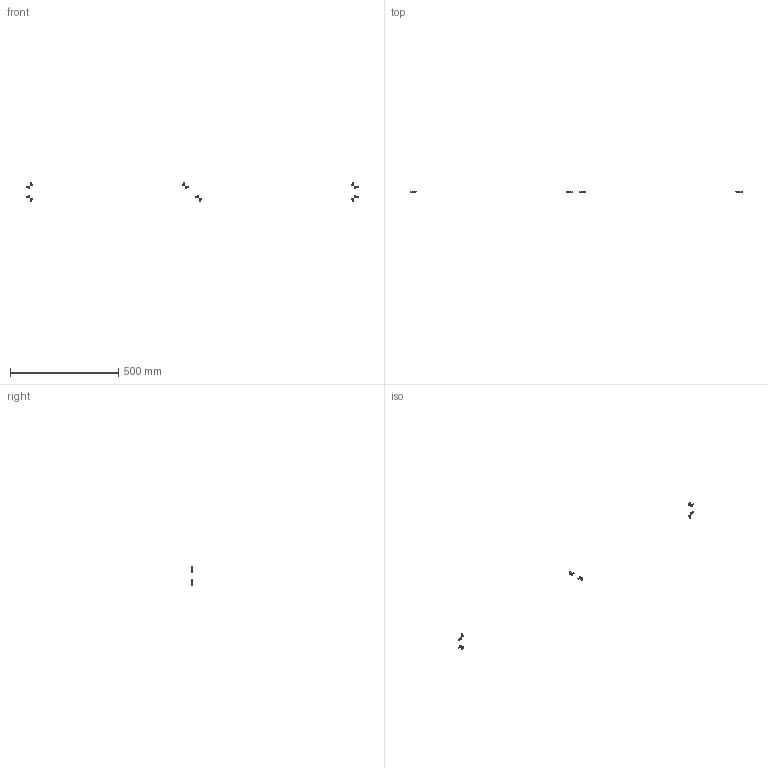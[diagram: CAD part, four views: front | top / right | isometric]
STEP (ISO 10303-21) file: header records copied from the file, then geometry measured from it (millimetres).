
FILE_DESCRIPTION(/* description */ (''),/* implementation_level */ '2;1');
FILE_NAME(/* name */ '4.frame-door#4.3#CB5-10',/* time_stamp */ '2014-12-01T20:12:36+01:00',/* author */ (''),/* organization */ (''),/* preprocessor_version */ 'ST-DEVELOPER v14',/* originating_system */ '',/* authorisation */ '');
FILE_SCHEMA (('AUTOMOTIVE_DESIGN'));
Length unit declared in the file: millimetre
Products named in the file (2): Document; screw DIN912-like, M5x10
Assembly tree (8 placements, depth 2):
  Document
    screw DIN912-like, M5x10  x8
Bounding box: 1535 x 8.5 x 91 mm (x, y, z)
Volume: 5261.5 mm3; surface area: 5116.7 mm2
Topology: 12 solids, 12 shells, 300 faces, 672 edges, 396 vertices
Faces by surface type: plane 180, bspline 120
Entity records: 6885 total; most frequent: CARTESIAN_POINT 3151, B_SPLINE_CURVE_WITH_KNOTS 630, ORIENTED_EDGE 540, PCURVE 540, DEFINITIONAL_REPRESENTATION 540, SURFACE_CURVE 270, EDGE_CURVE 270, VERTEX_POINT 165
